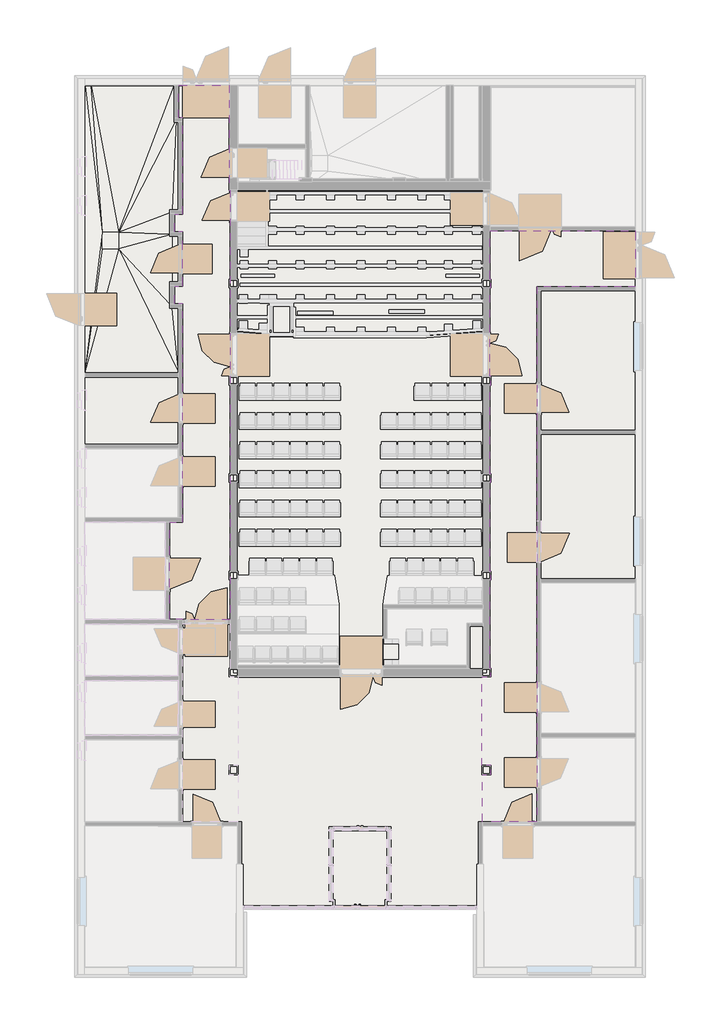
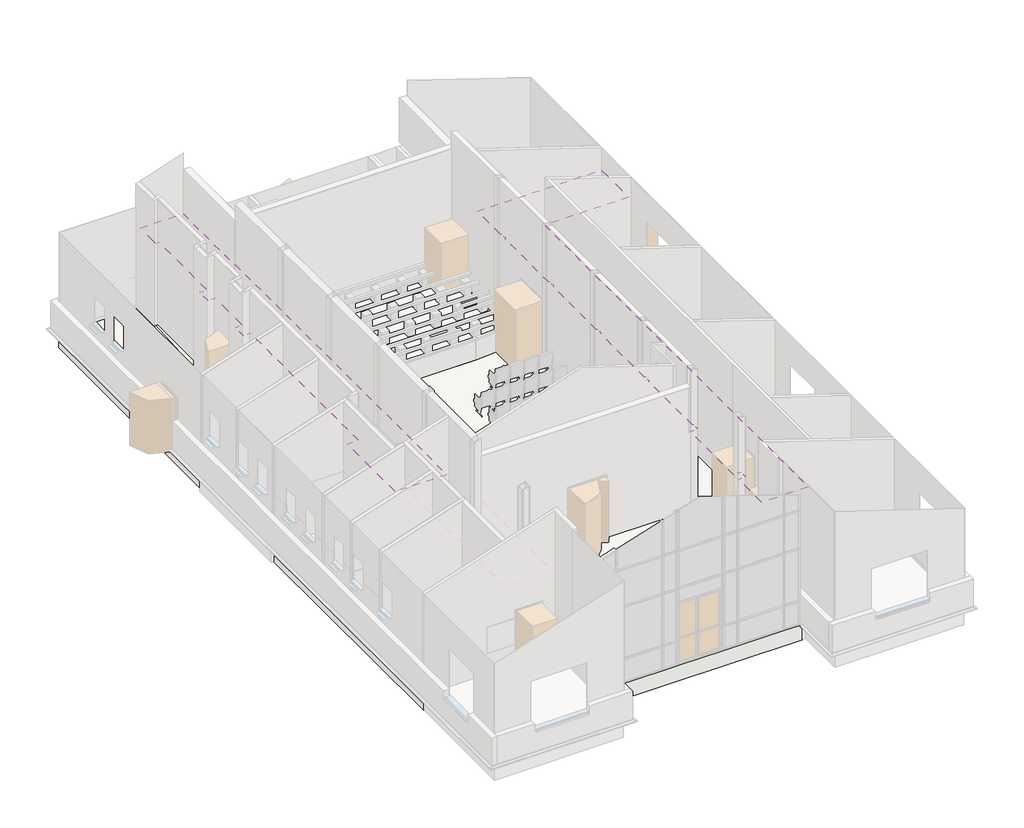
# One storey, part 10 of 12: 8 slabs, 2 coverings.
"""IFC4 building model written with IfcOpenShell, lengths in millimetres."""

from ifc_helpers import new_model, si_unit, frame, origin, place, context, project, spatial, polyline, outline, extrude, faceted_brep, element, save

model = new_model("IFC4")

# Units and contexts
model_context = context("Model", 3, world=origin())
ifc_project = project(units=[si_unit("LENGTHUNIT", "METRE", prefix="MILLI")], contexts=[model_context])

# Site, building, storey
site = spatial("IfcSite", under=ifc_project)
building = spatial("IfcBuilding", under=site)
storey = spatial("IfcBuildingStorey", under=building, Name="Этаж 01", Elevation=0.0)

# Coverings
placement = place(None, origin())
element("IfcCovering", 1, ObjectType="ADSK_Подвесной_Плиты потолочные Армстронг 600х600 мм", at=placement, inside=storey, context=model_context, shape_type="SweptSolid", body=[
    extrude(outline(polyline([(2805.2572865, 27099.0), (4365.0, 27099.0), (4365.0, 23874.5), (4394.0630762, 23874.5), (4394.0630762, 10631.0), (2925.2560094, 10631.0), (2925.2560094, 10640.0), (2535.0415712, 10640.0), (2535.0415712, 13640.0024506), (2935.2572865, 13640.0024506), (2935.2572865, 20369.9176473), (2675.2572925, 20369.9176473), (2675.2572925, 20909.9176368), (2935.2572865, 20909.9176368), (2935.2572865, 22589.9176629), (2675.2572925, 22589.9176629), (2675.2572925, 23129.9176524), (2935.2572865, 23129.9176524), (2935.2572865, 26109.9955786), (2805.2572865, 26109.9955786), (2805.2572865, 27099.0)])), frame((0.0, 0.0, 3000.0), z_axis=(0.0, 0.0, 1.0), x_axis=(1.0, 0.0, 0.0)), (0.0, 0.0, 1.0), 32.0),
])
element("IfcCovering", 2, ObjectType="ADSK_Подвесной_Плиты потолочные Армстронг 600х600 мм", at=placement, inside=storey, context=model_context, shape_type="SweptSolid", body=[
    extrude(outline(polyline([(12163.5, 6141.0), (12163.5, 8865.0000003), (12181.0630762, 8865.0000003), (12181.0630762, 8874.0), (12438.4369238, 8874.0), (12438.4369238, 9133.0), (12406.0, 9133.0), (12406.0, 11866.5), (12438.5, 11866.5), (12438.5, 12133.0), (12406.0, 12133.0), (12406.0, 14866.5), (12438.5, 14866.5), (12438.5, 15133.0), (12406.0, 15133.0), (12406.0, 17866.5), (12439.0000003, 17866.5), (12439.0000003, 18133.0), (12406.0, 18133.0), (12406.0, 20866.5), (12439.0, 20866.5), (12439.0, 21133.5), (12406.0, 21133.5), (12406.0, 22620.0), (16899.0, 22620.0), (16899.0, 20901.5), (13854.0, 20901.5), (13854.0, 4399.9957095), (12168.4369238, 4399.9957095), (12168.4369238, 5859.0), (12432.4369238, 5859.0), (12432.4369238, 6141.0), (12163.5, 6141.0)])), frame((0.0, 0.0, 3000.0), z_axis=(0.0, 0.0, 1.0), x_axis=(1.0, 0.0, 0.0)), (0.0, 0.0, 1.0), 32.0),
])

# Slabs
element("IfcSlab", 3, ObjectType="Основа", at=placement, inside=storey, context=model_context, shape_type="Brep", body=[
    faceted_brep([(16885.0, 7062.5, -627.0), (16885.0, 4337.4957095, -627.0), (16755.0, 4337.4957095, -627.0), (12112.5, 4337.4957095, -627.0), (12112.5, 1885.3517467, -627.0), (12112.5, 1755.3517467, -627.0), (4675.0, 1755.3517467, -627.0), (4675.0, 1885.3517467, -627.0), (4675.0, 4337.4957095, -627.0), (45.0, 4337.4957095, -627.0), (-85.0, 4337.4957095, -627.0), (-85.0, 13710.0024506, -627.0), (45.0, 13710.0024506, -627.0), (2865.2572865, 13710.0024506, -627.0), (2865.2572865, 20299.9176368, -627.0), (2605.2572925, 20299.9176368, -627.0), (2605.2572925, 20979.9176368, -627.0), (2865.2572865, 20979.9176368, -627.0), (2865.2572865, 22519.9176629, -627.0), (2605.2572925, 22519.9176629, -627.0), (2605.2572925, 23199.9176524, -627.0), (2865.2572865, 23199.9176524, -627.0), (2865.2572865, 26039.9955786, -627.0), (2735.2572865, 26039.9955786, -627.0), (2735.2572865, 26955.0, -627.0), (2735.2572865, 27085.0, -627.0), (4500.0, 27085.0, -627.0), (4500.0, 26955.0, -627.0), (4375.0, 26955.0, -627.0), (4375.0, 23875.0, -627.0), (4500.0, 23875.0, -627.0), (4500.0, 9000.0, -627.0), (4619.0630762, 9000.0, -627.0), (4619.0630762, 8875.0, -627.0), (12181.0630762, 8875.0, -627.0), (12181.0630762, 9000.0, -627.0), (12300.0, 9000.0, -627.0), (12300.0, 23875.0, -627.0), (12425.0, 23875.0, -627.0), (12425.0, 26955.0, -627.0), (12300.0, 26955.0, -627.0), (12300.0, 27085.0, -627.0), (16885.0, 27085.0, -627.0), (16885.0, 26955.0, -627.0), (16885.0, 20838.0, -627.0), (16755.0, 20838.0, -627.0), (13917.5, 20838.0, -627.0), (13917.5, 7062.5, -627.0), (16755.0, 7062.5, -627.0), (16885.0, 4337.4957095, -20.0), (16885.0, 7062.5, -20.0), (13917.5, 7062.5, -20.0), (13917.5, 20838.0, -20.0), (16885.0, 20838.0, -20.0), (16885.0, 26955.0, -20.0), (16885.0, 27085.0, -20.0), (12425.0, 27085.0, -20.0), (12425.0, 23875.0, -20.0), (12300.0, 23875.0, -20.0), (12300.0, 9000.0, -20.0), (12181.0630762, 9000.0, -20.0), (12181.0630762, 8875.0, -20.0), (4619.0630762, 8875.0, -20.0), (4619.0630762, 9000.0, -20.0), (4500.0, 9000.0, -20.0), (4500.0, 23875.0, -20.0), (4375.0, 23875.0, -20.0), (4375.0, 27085.0, -20.0), (2795.2572865, 27085.0, -20.0), (2735.2572865, 27085.0, -20.0), (2735.2572865, 26099.9955786, -20.0), (2735.2572865, 26039.9955786, -20.0), (2865.2572865, 26039.9955786, -20.0), (2865.2572865, 25979.9955786, -20.0), (2925.2572865, 25979.9955786, -20.0), (2925.2572865, 23259.9176524, -20.0), (2865.2572865, 23259.9176524, -20.0), (2865.2572865, 23199.9176524, -20.0), (2605.2572925, 23199.9176524, -20.0), (2605.2572925, 23139.9176524, -20.0), (2665.2572925, 23139.9176524, -20.0), (2665.2572925, 22579.9176629, -20.0), (2605.2572925, 22579.9176629, -20.0), (2605.2572925, 22519.9176629, -20.0), (2865.2572865, 22519.9176629, -20.0), (2865.2572865, 22459.9176629, -20.0), (2925.2572865, 22459.9176629, -20.0), (2925.2572865, 21039.9176368, -20.0), (2865.2572865, 21039.9176368, -20.0), (2865.2572865, 20979.9176368, -20.0), (2605.2572925, 20979.9176368, -20.0), (2605.2572925, 20919.9176368, -20.0), (2665.2572925, 20919.9176368, -20.0), (2665.2572925, 20359.9176368, -20.0), (2605.2572925, 20359.9176368, -20.0), (2605.2572925, 20299.9176368, -20.0), (2865.2572865, 20299.9176368, -20.0), (2865.2572865, 20239.9176368, -20.0), (2925.2572865, 20239.9176368, -20.0), (2925.2572865, 13770.0024506, -20.0), (2865.2572865, 13770.0024506, -20.0), (2865.2572865, 13710.0024506, -20.0), (-85.0, 13710.0024506, -20.0), (-85.0, 13650.0024506, -20.0), (-85.0, 10630.0, -20.0), (-85.0, 10510.0, -20.0), (-85.0, 8890.0, -20.0), (-85.0, 8770.0, -20.0), (-85.0, 7059.9969968, -20.0), (-85.0, 6939.9969968, -20.0), (-85.0, 4399.9957095, -20.0), (-85.0, 4337.4957095, -20.0), (4687.5, 4337.4957095, -20.0), (4687.5, 1885.3517467, -20.0), (4687.5, 1755.3517467, -20.0), (12112.5, 1755.3517467, -20.0), (12112.5, 1885.3517467, -20.0), (12112.5, 4337.4957095, -20.0), (2925.3948034, 10630.0, -20.0), (2925.3948034, 7059.9969968, -20.0), (2805.3948034, 7059.9969968, -20.0), (2805.3948034, 8770.0, -20.0), (2805.3948034, 8890.0, -20.0), (2805.3948034, 10510.0, -20.0), (2805.3948034, 10630.0, -20.0), (16885.0, 7062.5, -610.0), (16885.0, 4337.4957095, -610.0), (12112.5, 1755.3517467, -610.0), (4687.5, 1755.3517467, -610.0), (4675.0, 1755.3517467, -610.0), (-85.0, 4337.4957095, -610.0), (-85.0, 13710.0024506, -100.0), (-85.0, 13710.0024506, -610.0), (12300.0, 27085.0, -25.0), (12425.0, 27085.0, -25.0), (16885.0, 27085.0, -25.0), (4375.0, 26955.0, -25.0), (4375.0, 27085.0, -25.0), (12425.0, 26955.0, -25.0), (4619.0630762, 9000.0, -612.0), (12300.0, 23875.0, -612.0), (2665.2572925, 20919.9176368, -25.0), (2665.2572925, 20359.9176368, -25.0), (2605.2572925, 20359.9176368, -25.0), (2605.2572925, 20919.9176368, -25.0), (2665.2572925, 23139.9176524, -25.0), (2665.2572925, 22579.9176629, -25.0), (2605.2572925, 22579.9176629, -25.0), (2605.2572925, 23139.9176524, -25.0), (2925.2572865, 25979.9955786, -25.0), (2925.2572865, 23259.9176524, -25.0), (2865.2572865, 23259.9176524, -25.0), (2925.2572865, 22459.9176629, -25.0), (2925.2572865, 21039.9176368, -25.0), (2865.2572865, 21039.9176368, -25.0), (2865.2572865, 22459.9176629, -25.0), (2925.2572865, 20239.9176368, -25.0), (2925.2572865, 13770.0024506, -25.0), (2865.2572865, 13770.0024506, -25.0), (2865.2572865, 20239.9176368, -25.0), (2925.3948034, 10630.0, -25.0), (2925.3948034, 7059.9969968, -25.0), (2805.3948034, 7059.9969968, -25.0), (2805.3948034, 10630.0, -25.0), (2865.2572865, 13710.0024506, -610.0), (2865.2572865, 18180.0, -25.0), (2865.2572865, 20299.9176368, -25.0), (2605.2572925, 20299.9176368, -25.0), (2605.2572925, 20979.9176368, -25.0), (2865.2572865, 20979.9176368, -25.0), (2865.2572865, 22519.9176629, -25.0), (2605.2572925, 22519.9176629, -25.0), (2605.2572925, 23199.9176524, -25.0), (2865.2572865, 23199.9176524, -25.0), (2865.2572865, 25979.9955786, -25.0), (2865.2572865, 26039.9955786, -25.0), (2735.2572865, 26039.9955786, -25.0), (2735.2572865, 27085.0, -25.0), (12112.5, 4337.4957095, -610.0), (16885.0, 20838.0, -610.0), (13917.5, 20838.0, -610.0), (13917.5, 7062.5, -610.0), (4687.5, 4337.4957095, -610.0), (4675.0, 4337.4957095, -610.0), (4675.0, 1885.3517467, -610.0), (4500.0, 27085.0, -25.0), (4500.0, 27085.0, -540.0), (4500.0, 9000.0, -612.0), (4500.0, 26955.0, -25.0), (4500.0, 26955.0, -540.0), (12300.0, 9000.0, -612.0), (12181.0630762, 9000.0, -612.0), (12300.0, 26955.0, -25.0)], [[[0, 1, 2, 3, 4, 5, 6, 7, 8, 9, 10, 11, 12, 13, 14, 15, 16, 17, 18, 19, 20, 21, 22, 23, 24, 25, 26, 27, 28, 29, 30, 31, 32, 33, 34, 35, 36, 37, 38, 39, 40, 41, 42, 43, 44, 45, 46, 47, 48]], [[49, 50, 51, 52, 53, 54, 55, 56, 57, 58, 59, 60, 61, 62, 63, 64, 65, 66, 67, 68, 69, 70, 71, 72, 73, 74, 75, 76, 77, 78, 79, 80, 81, 82, 83, 84, 85, 86, 87, 88, 89, 90, 91, 92, 93, 94, 95, 96, 97, 98, 99, 100, 101, 102, 103, 104, 105, 106, 107, 108, 109, 110, 111, 112, 113, 114, 115, 116, 117], [118, 119, 120, 121, 122, 123, 124]], [[1, 0, 125, 50, 49, 126]], [[6, 5, 127, 115, 114, 128, 129]], [[11, 10, 130, 111, 110, 109, 108, 107, 106, 105, 104, 103, 102, 131, 132]], [[42, 41, 133, 134, 56, 55, 135]], [[29, 28, 136, 137, 67, 66]], [[39, 38, 57, 56, 134, 138]], [[33, 62, 61, 34]], [[62, 33, 32, 139, 63]], [[38, 37, 140, 58, 57]], [[141, 142, 93, 92]], [[93, 142, 143, 94]], [[141, 92, 91, 144]], [[145, 146, 81, 80]], [[81, 146, 147, 82]], [[145, 80, 79, 148]], [[149, 150, 75, 74]], [[75, 150, 151, 76]], [[152, 153, 87, 86]], [[87, 153, 154, 88]], [[152, 86, 85, 155]], [[156, 157, 99, 98]], [[99, 157, 158, 100]], [[156, 98, 97, 159]], [[160, 161, 119, 118]], [[162, 163, 124, 123, 122, 121, 120]], [[161, 162, 120, 119]], [[14, 13, 164, 101, 100, 158, 165, 159, 97, 96, 166]], [[15, 14, 166, 96, 95, 167]], [[16, 15, 167, 95, 94, 143, 144, 91, 90, 168]], [[17, 16, 168, 90, 89, 169]], [[18, 17, 169, 89, 88, 154, 155, 85, 84, 170]], [[19, 18, 170, 84, 83, 171]], [[20, 19, 171, 83, 82, 147, 148, 79, 78, 172]], [[21, 20, 172, 78, 77, 173]], [[22, 21, 173, 77, 76, 151, 174, 73, 72, 175]], [[23, 22, 175, 72, 71, 176]], [[25, 24, 23, 176, 71, 70, 69, 177]], [[13, 12, 11, 132, 131, 102, 101, 164]], [[3, 2, 1, 126, 49, 117, 178]], [[5, 4, 3, 178, 117, 116, 115, 127]], [[44, 43, 42, 135, 55, 54, 53, 179]], [[46, 45, 44, 179, 53, 52, 180]], [[47, 46, 180, 52, 51, 181]], [[0, 48, 47, 181, 51, 50, 125]], [[182, 183, 184, 129, 128]], [[26, 25, 177, 69, 68, 67, 137, 185, 186]], [[64, 187, 31, 30, 65]], [[27, 26, 186, 185, 188, 189]], [[31, 187, 64, 63, 139, 32]], [[59, 190, 36, 35, 191, 60]], [[36, 190, 59, 58, 140, 37]], [[41, 40, 192, 133]], [[8, 7, 6, 129, 184, 183]], [[10, 9, 8, 183, 182, 112, 111, 130]], [[112, 182, 128, 114, 113]], [[137, 136, 188, 185]], [[188, 136, 28, 27, 189]], [[138, 134, 133, 192]], [[138, 192, 40, 39]], [[29, 66, 65, 30]], [[34, 61, 60, 191, 35]], [[163, 160, 118, 124]], [[157, 156, 159, 165, 158]], [[142, 141, 144, 143]], [[146, 145, 148, 147]], [[150, 149, 174, 151]], [[149, 74, 73, 174]], [[153, 152, 155, 154]], [[161, 160, 163, 162]]]),
])
element("IfcSlab", 4, ObjectType="Основа 2", at=placement, inside=storey, context=model_context, shape_type="Brep", body=[
    faceted_brep([(2865.2572865, 18240.0, -605.0), (45.0, 18240.0, -605.0), (-85.0, 18240.0, -605.0), (-85.0, 27175.0, -605.0), (45.0, 27175.0, -605.0), (45.0, 26955.0, -605.0), (2735.2572865, 26955.0, -605.0), (2735.2572865, 26039.9955786, -605.0), (2865.2572865, 26039.9955786, -605.0), (2865.2572865, 23199.9176524, -605.0), (2605.2572925, 23199.9176524, -605.0), (2605.2572925, 22519.9176629, -605.0), (2865.2572865, 22519.9176629, -605.0), (2865.2572865, 20979.9176368, -605.0), (2605.2572925, 20979.9176368, -605.0), (2605.2572925, 20299.9176368, -605.0), (2865.2572865, 20299.9176368, -605.0), (2865.2572865, 18240.0, -25.0), (2805.2572865, 18240.0, -25.0), (2805.2572865, 18240.0, -20.0), (-85.0, 18240.0, -20.0), (-85.0, 18240.0, -100.0), (-85.0, 27085.0, -20.0), (-85.0, 27175.0, -20.0), (-85.0, 27175.0, -25.0), (-85.0, 27175.0, -100.0), (89.6092508, 27175.0, -20.0), (2695.2572865, 27175.0, -20.0), (2735.2572865, 27175.0, -20.0), (2735.2572865, 27175.0, -25.0), (45.0, 27175.0, -25.0), (45.0, 27175.0, -100.0), (449.6620548, 22569.3460592, -45.0), (-74.5520624, 27085.0, -20.48853), (949.7230003, 22069.4189087, -45.0), (949.7156303, 22569.3484536, -45.0), (449.6562003, 22069.4286245, -45.0), (96.6451142, 27085.0, -20.48853), (2865.2572865, 26039.9955786, -20.0), (2865.2572865, 25979.9955786, -20.0), (2865.2572865, 25979.9955786, -25.0), (2865.2572865, 23259.9176524, -25.0), (2865.2572865, 23199.9176524, -25.0), (106.4167694, 27085.0, -20.4885302), (2735.2572865, 26039.9955786, -20.0), (2735.2572865, 26955.0, -25.0), (2735.2572865, 26099.9955786, -25.0), (2735.2572865, 26099.9955786, -20.0), (2735.2572865, 27085.0, -20.0), (2735.2572865, 27085.0, -25.0), (2605.2572925, 23199.9176524, -25.0), (2605.2572925, 23139.9176524, -25.0), (2605.2572925, 22579.9176629, -25.0), (2605.2572925, 22519.9176629, -25.0), (2865.2572865, 22519.9176629, -25.0), (2865.2572865, 22459.9176629, -25.0), (2865.2572865, 22459.9176629, -20.0), (2865.2572865, 21039.9176368, -20.0), (2865.2572865, 21039.9176368, -25.0), (2865.2572865, 20979.9176368, -25.0), (2605.2572925, 20979.9176368, -25.0), (2605.2572925, 20919.9176368, -25.0), (2605.2572925, 20359.9176368, -25.0), (2605.2572925, 20299.9176368, -25.0), (2865.2572865, 20299.9176368, -25.0), (2865.2572865, 20239.9176368, -25.0), (2545.2572925, 21039.9176368, -20.9060519), (2605.2572925, 21039.9176368, -20.0), (2605.2572925, 22459.9176629, -20.0), (2545.2572925, 22459.9176629, -20.9060519), (2545.2572925, 22503.5906527, -20.9060519), (2545.2572925, 20364.0480368, -20.9060519), (2545.2572925, 22521.7091294, -20.9060479), (2733.1427573, 26099.9955786, -20.0), (2675.2572865, 26099.9955786, -20.7585152), (2675.2572865, 27085.0, -20.3036368), (2698.4290804, 27085.0, -20.0), (2661.147292, 27085.0, -20.4885302), (2545.2572925, 23177.0646171, -20.9060479), (2545.2572925, 23259.9176524, -20.9643333), (2608.0036959, 23259.9176524, -20.0), (2805.2572865, 23259.9176524, -20.0), (2805.2572865, 25979.9955786, -20.0), (2611.082768, 20239.9176368, -20.0), (2805.2572865, 20239.9176368, -20.0), (2545.2572925, 20239.9176368, -21.1091206), (2805.2572865, 23259.9176524, -25.0), (2805.2572865, 25979.9955786, -25.0), (2545.2572925, 20239.9176368, -25.0), (2805.2572865, 20239.9176368, -25.0), (2545.2572925, 20359.9176368, -25.0), (2545.2572925, 20919.9176368, -25.0), (2545.2572925, 21039.9176368, -25.0), (2545.2572925, 22459.9176629, -25.0), (2545.2572925, 22579.9176629, -25.0), (2545.2572925, 23139.9176524, -25.0), (2545.2572925, 23259.9176524, -25.0), (2675.2572865, 26099.9955786, -25.0), (2675.2572865, 26955.0, -25.0), (2675.2572865, 27085.0, -25.0), (45.0, 26955.0, -25.0)], [[[0, 1, 2, 3, 4, 5, 6, 7, 8, 9, 10, 11, 12, 13, 14, 15, 16]], [[2, 1, 0, 17, 18, 19, 20, 21]], [[3, 2, 21, 20, 22, 23, 24, 25]], [[3, 25, 24, 23, 26, 27, 28, 29, 30, 31, 4]], [[23, 22, 20, 32, 33]], [[34, 35, 32, 36]], [[36, 32, 20]], [[23, 33, 32, 37, 26]], [[9, 8, 38, 39, 40, 41, 42]], [[34, 36, 20]], [[32, 35, 43, 26, 37]], [[44, 7, 6, 45, 46, 47]], [[28, 48, 49, 29]], [[8, 7, 44, 38]], [[10, 9, 42, 50]], [[11, 10, 50, 51, 52, 53]], [[12, 11, 53, 54]], [[13, 12, 54, 55, 56, 57, 58, 59]], [[14, 13, 59, 60]], [[15, 14, 60, 61, 62, 63]], [[16, 15, 63, 64]], [[0, 16, 64, 65, 17]], [[66, 67, 68, 69, 70, 34, 71]], [[35, 34, 70, 72]], [[35, 44, 73, 74, 75, 76, 27, 77]], [[35, 72, 78]], [[44, 35, 78, 79, 80]], [[67, 57, 56, 68]], [[38, 44, 80, 81, 82, 39]], [[26, 43, 35, 77, 27]], [[47, 73, 44]], [[28, 27, 76, 48]], [[34, 20, 19]], [[83, 19, 84]], [[34, 19, 83, 85, 71]], [[86, 87, 82, 81]], [[88, 85, 83, 84, 89]], [[85, 88, 90, 91, 92, 66, 71]], [[66, 92, 58, 57, 67]], [[93, 69, 68, 56, 55]], [[69, 93, 94, 95, 96, 79, 78, 72, 70]], [[79, 96, 86, 81, 80]], [[74, 97, 98, 99, 75]], [[97, 74, 73, 47, 46]], [[75, 99, 49, 48, 76]], [[5, 100, 98, 45, 6]], [[98, 100, 30, 29, 49, 99]], [[100, 5, 4, 31, 30]], [[18, 89, 84, 19]], [[87, 86, 96, 95, 94, 93, 55, 54, 53, 52, 51, 50, 42, 41, 40]], [[82, 87, 40, 39]], [[64, 63, 62, 61, 60, 59, 58, 92, 91, 90, 88, 89, 18, 17, 65]], [[97, 46, 45, 98]]]),
])
element("IfcSlab", 5, ObjectType="Основа", at=placement, inside=storey, context=model_context, shape_type="Brep", body=[
    faceted_brep([(4500.0, 9000.0, -612.0), (4500.0, 24000.0, -612.0), (4625.0, 24000.0, -612.0), (4625.0, 23875.0, -612.0), (12300.0, 23875.0, -612.0), (12300.0, 9000.0, -612.0), (12181.0630762, 9000.0, -612.0), (12181.0630762, 9125.0, -612.0), (4619.0630762, 9125.0, -612.0), (4619.0630762, 9000.0, -612.0), (4500.0, 24000.0, -5.0), (4500.0, 11900.0, -5.0), (4500.0, 9100.0, -5.0), (4500.0, 9000.0, -5.0), (4619.0630762, 9000.0, -5.0), (4619.0630762, 9125.0, -5.0), (12181.0630762, 9125.0, -5.0), (12181.0630762, 9000.0, -5.0), (12300.0, 9000.0, -5.0), (12300.0, 12100.0, -5.0), (12300.0, 14900.0, -5.0), (12300.0, 23875.0, -5.0), (4625.0, 23875.0, -5.0), (4625.0, 24000.0, -5.0), (4944.9999907, 21704.9861536, -5.0), (4944.9999907, 21454.9861536, -5.0), (4694.9999907, 21454.9861536, -5.0), (4694.9999907, 21704.9861536, -5.0), (4945.0, 22075.0, -5.0), (4945.0, 21825.0, -5.0), (4695.0, 21825.0, -5.0), (4695.0, 22075.0, -5.0), (4924.9987483, 20644.9144735, -5.0), (4924.9987483, 20394.9144735, -5.0), (4674.9987483, 20394.9144735, -5.0), (4674.9987483, 20644.9144735, -5.0), (4924.9987483, 19854.4960288, -5.0), (4924.9987483, 19604.4960288, -5.0), (4674.9987483, 19604.4960288, -5.0), (4674.9987483, 19854.4960288, -5.0), (5324.9987483, 20394.9144735, -5.0), (5324.9987483, 20644.9144735, -5.0), (5824.9987483, 20644.9144735, -5.0), (5824.9987483, 20394.9144735, -5.0), (5824.9999907, 21704.9861536, -5.0), (5824.9999907, 21454.9861536, -5.0), (5574.9999907, 21454.9861536, -5.0), (5574.9999907, 21704.9861536, -5.0), (6680.0047797, 21704.9861536, -5.0), (6680.0047797, 21454.9861536, -5.0), (6430.0047797, 21454.9861536, -5.0), (6430.0047797, 21704.9861536, -5.0), (7619.1719447, 22765.0578244, -5.0), (7619.1719447, 22515.0578244, -5.0), (7369.1719447, 22515.0578244, -5.0), (7369.1719447, 22765.0578244, -5.0), (6680.0047797, 23825.0000093, -5.0), (6680.0047797, 23575.0000093, -5.0), (6430.0047797, 23575.0000093, -5.0), (6430.0047797, 23825.0000093, -5.0), (5829.6999907, 23825.0000093, -5.0), (5829.6999907, 23575.0000093, -5.0), (5579.6999907, 23575.0000093, -5.0), (5579.6999907, 23825.0000093, -5.0), (7619.6854574, 23825.0000093, -5.0), (7619.6854574, 23575.0000093, -5.0), (7369.6854574, 23575.0000093, -5.0), (7369.6854574, 23825.0000093, -5.0), (8559.8874985, 23825.0000093, -5.0), (8559.8874985, 23575.0000093, -5.0), (8309.8874985, 23575.0000093, -5.0), (8309.8874985, 23825.0000093, -5.0), (8559.3739857, 22765.0578244, -5.0), (8559.3739857, 22515.0578244, -5.0), (8309.3739857, 22515.0578244, -5.0), (8309.3739857, 22765.0578244, -5.0), (7619.6854667, 21704.9861536, -5.0), (7619.6854667, 21454.9861536, -5.0), (7369.6854667, 21454.9861536, -5.0), (7369.6854667, 21704.9861536, -5.0), (5529.964908, 19775.47696, -5.0), (5529.964908, 19525.47696, -5.0), (5279.964908, 19525.47696, -5.0), (5279.964908, 19775.47696, -5.0), (6680.0047797, 19644.9452231, -5.0), (6680.0047797, 19394.9452231, -5.0), (6430.0047797, 19394.9452231, -5.0), (6430.0047797, 19644.9452231, -5.0), (7620.0047797, 19644.9452231, -5.0), (7620.0047797, 19394.9452231, -5.0), (7370.0047797, 19394.9452231, -5.0), (7370.0047797, 19644.9452231, -5.0), (8560.0047797, 19644.9452231, -5.0), (8560.0047797, 19394.9452231, -5.0), (8310.0047797, 19394.9452231, -5.0), (8310.0047797, 19644.9452231, -5.0), (9500.0047797, 19644.9452231, -5.0), (9500.0047797, 19394.9452231, -5.0), (9250.0047797, 19394.9452231, -5.0), (9250.0047797, 19644.9452231, -5.0), (8560.0047797, 20645.9144828, -5.0), (8560.0047797, 20395.9144828, -5.0), (8310.0047797, 20395.9144828, -5.0), (8310.0047797, 20645.9144828, -5.0), (7620.0047797, 20645.9144828, -5.0), (7620.0047797, 20395.9144828, -5.0), (7370.0047797, 20395.9144828, -5.0), (7370.0047797, 20645.9144828, -5.0), (6680.0047797, 20645.9144828, -5.0), (6680.0047797, 20395.9144828, -5.0), (6430.0047797, 20395.9144828, -5.0), (6430.0047797, 20645.9144828, -5.0), (8559.8875171, 21704.9861536, -5.0), (8559.8875171, 21454.9861536, -5.0), (8309.8875171, 21454.9861536, -5.0), (8309.8875171, 21704.9861536, -5.0), (9500.0895488, 21704.9861536, -5.0), (9500.0895488, 21454.9861536, -5.0), (9250.0895488, 21454.9861536, -5.0), (9250.0895488, 21704.9861536, -5.0), (10440.287517, 21704.9861536, -5.0), (10440.287517, 21454.9861536, -5.0), (10190.287517, 21454.9861536, -5.0), (10190.287517, 21704.9861536, -5.0), (9500.0047797, 20645.9144828, -5.0), (9500.0047797, 20395.9144828, -5.0), (9250.0047797, 20395.9144828, -5.0), (9250.0047797, 20645.9144828, -5.0), (6680.0047797, 22765.0578244, -5.0), (6680.0047797, 22515.0578244, -5.0), (6430.0047797, 22515.0578244, -5.0), (6430.0047797, 22765.0578244, -5.0), (5829.6999907, 22765.0578244, -5.0), (5829.6999907, 22515.0578244, -5.0), (5579.6999907, 22515.0578244, -5.0), (5579.6999907, 22765.0578244, -5.0), (9499.3229082, 22765.0578244, -5.0), (9499.3229082, 22515.0578244, -5.0), (9249.3229082, 22515.0578244, -5.0), (9249.3229082, 22765.0578244, -5.0), (9499.3229082, 23825.0000093, -5.0), (9499.3229082, 23575.0000093, -5.0), (9249.3229082, 23575.0000093, -5.0), (9249.3229082, 23825.0000093, -5.0), (10440.287517, 23825.0000093, -5.0), (10440.287517, 23575.0000093, -5.0), (10190.287517, 23575.0000093, -5.0), (10190.287517, 23825.0000093, -5.0), (10439.7740043, 22765.0578244, -5.0), (10439.7740043, 22515.0578244, -5.0), (10189.7740043, 22515.0578244, -5.0), (10189.7740043, 22765.0578244, -5.0), (10440.0047797, 20645.9144828, -5.0), (10440.0047797, 20395.9144828, -5.0), (10190.0047797, 20395.9144828, -5.0), (10190.0047797, 20645.9144828, -5.0), (10440.0047797, 19644.9452231, -5.0), (10440.0047797, 19394.9452231, -5.0), (10190.0047797, 19394.9452231, -5.0), (10190.0047797, 19644.9452231, -5.0), (11248.612159, 19745.9314238, -5.0), (11248.612159, 19495.9314238, -5.0), (10998.612159, 19495.9314238, -5.0), (10998.612159, 19745.9314238, -5.0), (11250.1553074, 20645.9144828, -5.0), (11250.1553074, 20395.9144828, -5.0), (11000.1553074, 20395.9144828, -5.0), (11000.1553074, 20645.9144828, -5.0), (11250.1553259, 21704.9861536, -5.0), (11250.1553259, 21454.9861536, -5.0), (11000.1553259, 21454.9861536, -5.0), (11000.1553259, 21704.9861536, -5.0), (11249.6418039, 22765.0578244, -5.0), (11249.6418039, 22515.0578244, -5.0), (10999.6418039, 22515.0578244, -5.0), (10999.6418039, 22765.0578244, -5.0), (11249.6418039, 23825.0000093, -5.0), (11249.6418039, 23575.0000093, -5.0), (10999.6418039, 23575.0000093, -5.0), (10999.6418039, 23825.0000093, -5.0), (12124.8012517, 23825.0000093, -5.0), (12124.8012517, 23575.0000093, -5.0), (11874.8012517, 23575.0000093, -5.0), (11874.8012517, 23825.0000093, -5.0), (12124.8012517, 22765.0578244, -5.0), (12124.8012517, 22515.0578244, -5.0), (11874.8012517, 22515.0578244, -5.0), (11874.8012517, 22765.0578244, -5.0), (12124.8012517, 21704.9861536, -5.0), (12124.8012517, 21454.9861536, -5.0), (11874.8012517, 21454.9861536, -5.0), (11874.8012517, 21704.9861536, -5.0), (12124.8012424, 20645.9144828, -5.0), (12124.8012424, 20395.9144828, -5.0), (11874.8012424, 20395.9144828, -5.0), (11874.8012424, 20645.9144828, -5.0), (12128.8953316, 19855.4960288, -5.0), (12128.8953316, 19605.4960288, -5.0), (11878.8953316, 19605.4960288, -5.0), (11878.8953316, 19855.4960288, -5.0), (4619.0630762, 9000.0, -20.0), (4500.0, 9000.0, -20.0), (12300.0, 9000.0, -20.0), (12181.0630762, 9000.0, -20.0), (4500.0, 24000.0, -20.0), (12300.0, 23875.0, -20.0), (4944.9999907, 21454.9861536, -160.0), (4944.9999907, 21704.9861536, -160.0), (4694.9999907, 21704.9861536, -160.0), (4694.9999907, 21454.9861536, -160.0), (4945.0, 21825.0, -160.0), (4945.0, 22075.0, -160.0), (4695.0, 22075.0, -160.0), (4695.0, 21825.0, -160.0), (4924.9987483, 20394.9144735, -160.0), (4924.9987483, 20644.9144735, -160.0), (4674.9987483, 20644.9144735, -160.0), (4674.9987483, 20394.9144735, -160.0), (4924.9987483, 19604.4960288, -160.0), (4924.9987483, 19854.4960288, -160.0), (4674.9987483, 19854.4960288, -160.0), (4674.9987483, 19604.4960288, -160.0), (5324.9987483, 20644.9144735, -160.0), (5324.9987483, 20394.9144735, -160.0), (5574.9987483, 20394.9144735, -160.0), (5824.9987483, 20394.9144735, -160.0), (5824.9987483, 20644.9144735, -160.0), (5574.9987483, 20644.9144735, -160.0), (5824.9999907, 21454.9861536, -160.0), (5824.9999907, 21704.9861536, -160.0), (5574.9999907, 21704.9861536, -160.0), (5574.9999907, 21454.9861536, -160.0), (6680.0047797, 21454.9861536, -160.0), (6680.0047797, 21704.9861536, -160.0), (6430.0047797, 21704.9861536, -160.0), (6430.0047797, 21454.9861536, -160.0), (7619.1719447, 22515.0578244, -160.0), (7619.1719447, 22765.0578244, -160.0), (7369.1719447, 22765.0578244, -160.0), (7369.1719447, 22515.0578244, -160.0), (6680.0047797, 23575.0000093, -160.0), (6680.0047797, 23825.0000093, -160.0), (6430.0047797, 23825.0000093, -160.0), (6430.0047797, 23575.0000093, -160.0), (5829.6999907, 23575.0000093, -160.0), (5829.6999907, 23825.0000093, -160.0), (5579.6999907, 23825.0000093, -160.0), (5579.6999907, 23575.0000093, -160.0), (7619.6854574, 23575.0000093, -160.0), (7619.6854574, 23825.0000093, -160.0), (7369.6854574, 23825.0000093, -160.0), (7369.6854574, 23575.0000093, -160.0), (8559.8874985, 23575.0000093, -160.0), (8559.8874985, 23825.0000093, -160.0), (8309.8874985, 23825.0000093, -160.0), (8309.8874985, 23575.0000093, -160.0), (8559.3739857, 22515.0578244, -160.0), (8559.3739857, 22765.0578244, -160.0), (8309.3739857, 22765.0578244, -160.0), (8309.3739857, 22515.0578244, -160.0), (7619.6854667, 21454.9861536, -160.0), (7619.6854667, 21704.9861536, -160.0), (7369.6854667, 21704.9861536, -160.0), (7369.6854667, 21454.9861536, -160.0), (5529.964908, 19525.47696, -160.0), (5529.964908, 19775.47696, -160.0), (5279.964908, 19775.47696, -160.0), (5279.964908, 19525.47696, -160.0), (6680.0047797, 19394.9452231, -160.0), (6680.0047797, 19644.9452231, -160.0), (6430.0047797, 19644.9452231, -160.0), (6430.0047797, 19394.9452231, -160.0), (7620.0047797, 19394.9452231, -160.0), (7620.0047797, 19644.9452231, -160.0), (7370.0047797, 19644.9452231, -160.0), (7370.0047797, 19394.9452231, -160.0), (8560.0047797, 19394.9452231, -160.0), (8560.0047797, 19644.9452231, -160.0), (8310.0047797, 19644.9452231, -160.0), (8310.0047797, 19394.9452231, -160.0), (9500.0047797, 19394.9452231, -160.0), (9500.0047797, 19644.9452231, -160.0), (9250.0047797, 19644.9452231, -160.0), (9250.0047797, 19394.9452231, -160.0), (8560.0047797, 20395.9144828, -160.0), (8560.0047797, 20645.9144828, -160.0), (8310.0047797, 20645.9144828, -160.0), (8310.0047797, 20395.9144828, -160.0), (7620.0047797, 20395.9144828, -160.0), (7620.0047797, 20645.9144828, -160.0), (7370.0047797, 20645.9144828, -160.0), (7370.0047797, 20395.9144828, -160.0), (6680.0047797, 20395.9144828, -160.0), (6680.0047797, 20645.9144828, -160.0), (6430.0047797, 20645.9144828, -160.0), (6430.0047797, 20395.9144828, -160.0), (8559.8875171, 21454.9861536, -160.0), (8559.8875171, 21704.9861536, -160.0), (8309.8875171, 21704.9861536, -160.0), (8309.8875171, 21454.9861536, -160.0), (9500.0895488, 21454.9861536, -160.0), (9500.0895488, 21704.9861536, -160.0), (9250.0895488, 21704.9861536, -160.0), (9250.0895488, 21454.9861536, -160.0), (10440.287517, 21454.9861536, -160.0), (10440.287517, 21704.9861536, -160.0), (10190.287517, 21704.9861536, -160.0), (10190.287517, 21454.9861536, -160.0), (9500.0047797, 20395.9144828, -160.0), (9500.0047797, 20645.9144828, -160.0), (9250.0047797, 20645.9144828, -160.0), (9250.0047797, 20395.9144828, -160.0), (6680.0047797, 22515.0578244, -160.0), (6680.0047797, 22765.0578244, -160.0), (6430.0047797, 22765.0578244, -160.0), (6430.0047797, 22515.0578244, -160.0), (5829.6999907, 22515.0578244, -160.0), (5829.6999907, 22765.0578244, -160.0), (5579.6999907, 22765.0578244, -160.0), (5579.6999907, 22515.0578244, -160.0), (9499.3229082, 22515.0578244, -160.0), (9499.3229082, 22765.0578244, -160.0), (9249.3229082, 22765.0578244, -160.0), (9249.3229082, 22515.0578244, -160.0), (9499.3229082, 23575.0000093, -160.0), (9499.3229082, 23825.0000093, -160.0), (9249.3229082, 23825.0000093, -160.0), (9249.3229082, 23575.0000093, -160.0), (10440.287517, 23575.0000093, -160.0), (10440.287517, 23825.0000093, -160.0), (10190.287517, 23825.0000093, -160.0), (10190.287517, 23575.0000093, -160.0), (10439.7740043, 22515.0578244, -160.0), (10439.7740043, 22765.0578244, -160.0), (10189.7740043, 22765.0578244, -160.0), (10189.7740043, 22515.0578244, -160.0), (10440.0047797, 20395.9144828, -160.0), (10440.0047797, 20645.9144828, -160.0), (10190.0047797, 20645.9144828, -160.0), (10190.0047797, 20395.9144828, -160.0), (10440.0047797, 19394.9452231, -160.0), (10440.0047797, 19644.9452231, -160.0), (10190.0047797, 19644.9452231, -160.0), (10190.0047797, 19394.9452231, -160.0), (11248.612159, 19495.9314238, -160.0), (11248.612159, 19745.9314238, -160.0), (10998.612159, 19745.9314238, -160.0), (10998.612159, 19495.9314238, -160.0), (11250.1553074, 20395.9144828, -160.0), (11250.1553074, 20645.9144828, -160.0), (11000.1553074, 20645.9144828, -160.0), (11000.1553074, 20395.9144828, -160.0), (11250.1553259, 21454.9861536, -160.0), (11250.1553259, 21704.9861536, -160.0), (11000.1553259, 21704.9861536, -160.0), (11000.1553259, 21454.9861536, -160.0), (11249.6418039, 22515.0578244, -160.0), (11249.6418039, 22765.0578244, -160.0), (10999.6418039, 22765.0578244, -160.0), (10999.6418039, 22515.0578244, -160.0), (11249.6418039, 23575.0000093, -160.0), (11249.6418039, 23825.0000093, -160.0), (10999.6418039, 23825.0000093, -160.0), (10999.6418039, 23575.0000093, -160.0), (12124.8012517, 23575.0000093, -160.0), (12124.8012517, 23825.0000093, -160.0), (11874.8012517, 23825.0000093, -160.0), (11874.8012517, 23575.0000093, -160.0), (12124.8012517, 22515.0578244, -160.0), (12124.8012517, 22765.0578244, -160.0), (11874.8012517, 22765.0578244, -160.0), (11874.8012517, 22515.0578244, -160.0), (12124.8012517, 21454.9861536, -160.0), (12124.8012517, 21704.9861536, -160.0), (11874.8012517, 21704.9861536, -160.0), (11874.8012517, 21454.9861536, -160.0), (12124.8012424, 20395.9144828, -160.0), (12124.8012424, 20645.9144828, -160.0), (11874.8012424, 20645.9144828, -160.0), (11874.8012424, 20395.9144828, -160.0), (12128.8953316, 19605.4960288, -160.0), (12128.8953316, 19855.4960288, -160.0), (11878.8953316, 19855.4960288, -160.0), (11878.8953316, 19605.4960288, -160.0)], [[[0, 1, 2, 3, 4, 5, 6, 7, 8, 9]], [[10, 11, 12, 13, 14, 15, 16, 17, 18, 19, 20, 21, 22, 23], [24, 25, 26, 27], [28, 29, 30, 31], [32, 33, 34, 35], [36, 37, 38, 39], [40, 41, 42, 43], [44, 45, 46, 47], [48, 49, 50, 51], [52, 53, 54, 55], [56, 57, 58, 59], [60, 61, 62, 63], [64, 65, 66, 67], [68, 69, 70, 71], [72, 73, 74, 75], [76, 77, 78, 79], [80, 81, 82, 83], [84, 85, 86, 87], [88, 89, 90, 91], [92, 93, 94, 95], [96, 97, 98, 99], [100, 101, 102, 103], [104, 105, 106, 107], [108, 109, 110, 111], [112, 113, 114, 115], [116, 117, 118, 119], [120, 121, 122, 123], [124, 125, 126, 127], [128, 129, 130, 131], [132, 133, 134, 135], [136, 137, 138, 139], [140, 141, 142, 143], [144, 145, 146, 147], [148, 149, 150, 151], [152, 153, 154, 155], [156, 157, 158, 159], [160, 161, 162, 163], [164, 165, 166, 167], [168, 169, 170, 171], [172, 173, 174, 175], [176, 177, 178, 179], [180, 181, 182, 183], [184, 185, 186, 187], [188, 189, 190, 191], [192, 193, 194, 195], [196, 197, 198, 199]], [[0, 9, 200, 14, 13, 201]], [[5, 202, 18, 17, 203, 6]], [[1, 0, 201, 13, 12, 11, 10, 204]], [[204, 10, 23, 2, 1]], [[202, 5, 4, 205, 21, 20, 19, 18]], [[15, 8, 7, 16]], [[8, 15, 14, 200, 9]], [[4, 3, 22, 21, 205]], [[206, 207, 208, 209]], [[207, 206, 25, 24]], [[206, 209, 26, 25]], [[209, 208, 27, 26]], [[208, 207, 24, 27]], [[210, 211, 212, 213]], [[211, 210, 29, 28]], [[210, 213, 30, 29]], [[213, 212, 31, 30]], [[212, 211, 28, 31]], [[214, 215, 216, 217]], [[215, 214, 33, 32]], [[214, 217, 34, 33]], [[217, 216, 35, 34]], [[216, 215, 32, 35]], [[218, 219, 220, 221]], [[219, 218, 37, 36]], [[218, 221, 38, 37]], [[221, 220, 39, 38]], [[220, 219, 36, 39]], [[222, 223, 224, 225, 226, 227]], [[223, 40, 43, 225, 224]], [[223, 222, 41, 40]], [[41, 222, 227, 226, 42]], [[226, 225, 43, 42]], [[228, 229, 230, 231]], [[229, 228, 45, 44]], [[228, 231, 46, 45]], [[231, 230, 47, 46]], [[230, 229, 44, 47]], [[232, 233, 234, 235]], [[233, 232, 49, 48]], [[232, 235, 50, 49]], [[235, 234, 51, 50]], [[234, 233, 48, 51]], [[236, 237, 238, 239]], [[237, 236, 53, 52]], [[236, 239, 54, 53]], [[239, 238, 55, 54]], [[238, 237, 52, 55]], [[240, 241, 242, 243]], [[241, 240, 57, 56]], [[240, 243, 58, 57]], [[243, 242, 59, 58]], [[242, 241, 56, 59]], [[244, 245, 246, 247]], [[245, 244, 61, 60]], [[244, 247, 62, 61]], [[247, 246, 63, 62]], [[246, 245, 60, 63]], [[248, 249, 250, 251]], [[249, 248, 65, 64]], [[248, 251, 66, 65]], [[251, 250, 67, 66]], [[250, 249, 64, 67]], [[252, 253, 254, 255]], [[253, 252, 69, 68]], [[252, 255, 70, 69]], [[255, 254, 71, 70]], [[254, 253, 68, 71]], [[256, 257, 258, 259]], [[257, 256, 73, 72]], [[256, 259, 74, 73]], [[259, 258, 75, 74]], [[258, 257, 72, 75]], [[260, 261, 262, 263]], [[261, 260, 77, 76]], [[260, 263, 78, 77]], [[263, 262, 79, 78]], [[262, 261, 76, 79]], [[264, 265, 266, 267]], [[265, 264, 81, 80]], [[264, 267, 82, 81]], [[267, 266, 83, 82]], [[266, 265, 80, 83]], [[268, 269, 270, 271]], [[269, 268, 85, 84]], [[268, 271, 86, 85]], [[271, 270, 87, 86]], [[270, 269, 84, 87]], [[272, 273, 274, 275]], [[273, 272, 89, 88]], [[272, 275, 90, 89]], [[275, 274, 91, 90]], [[274, 273, 88, 91]], [[276, 277, 278, 279]], [[277, 276, 93, 92]], [[276, 279, 94, 93]], [[279, 278, 95, 94]], [[278, 277, 92, 95]], [[280, 281, 282, 283]], [[281, 280, 97, 96]], [[280, 283, 98, 97]], [[283, 282, 99, 98]], [[282, 281, 96, 99]], [[284, 285, 286, 287]], [[285, 284, 101, 100]], [[284, 287, 102, 101]], [[287, 286, 103, 102]], [[286, 285, 100, 103]], [[288, 289, 290, 291]], [[289, 288, 105, 104]], [[288, 291, 106, 105]], [[291, 290, 107, 106]], [[290, 289, 104, 107]], [[292, 293, 294, 295]], [[293, 292, 109, 108]], [[292, 295, 110, 109]], [[295, 294, 111, 110]], [[294, 293, 108, 111]], [[296, 297, 298, 299]], [[297, 296, 113, 112]], [[296, 299, 114, 113]], [[299, 298, 115, 114]], [[298, 297, 112, 115]], [[300, 301, 302, 303]], [[301, 300, 117, 116]], [[300, 303, 118, 117]], [[303, 302, 119, 118]], [[302, 301, 116, 119]], [[304, 305, 306, 307]], [[305, 304, 121, 120]], [[304, 307, 122, 121]], [[307, 306, 123, 122]], [[306, 305, 120, 123]], [[308, 309, 310, 311]], [[309, 308, 125, 124]], [[308, 311, 126, 125]], [[311, 310, 127, 126]], [[310, 309, 124, 127]], [[312, 313, 314, 315]], [[313, 312, 129, 128]], [[312, 315, 130, 129]], [[315, 314, 131, 130]], [[314, 313, 128, 131]], [[316, 317, 318, 319]], [[317, 316, 133, 132]], [[316, 319, 134, 133]], [[319, 318, 135, 134]], [[318, 317, 132, 135]], [[320, 321, 322, 323]], [[321, 320, 137, 136]], [[320, 323, 138, 137]], [[323, 322, 139, 138]], [[322, 321, 136, 139]], [[324, 325, 326, 327]], [[325, 324, 141, 140]], [[324, 327, 142, 141]], [[327, 326, 143, 142]], [[326, 325, 140, 143]], [[328, 329, 330, 331]], [[329, 328, 145, 144]], [[328, 331, 146, 145]], [[331, 330, 147, 146]], [[330, 329, 144, 147]], [[332, 333, 334, 335]], [[333, 332, 149, 148]], [[332, 335, 150, 149]], [[335, 334, 151, 150]], [[334, 333, 148, 151]], [[336, 337, 338, 339]], [[337, 336, 153, 152]], [[336, 339, 154, 153]], [[339, 338, 155, 154]], [[338, 337, 152, 155]], [[340, 341, 342, 343]], [[341, 340, 157, 156]], [[340, 343, 158, 157]], [[343, 342, 159, 158]], [[342, 341, 156, 159]], [[344, 345, 346, 347]], [[345, 344, 161, 160]], [[344, 347, 162, 161]], [[347, 346, 163, 162]], [[346, 345, 160, 163]], [[348, 349, 350, 351]], [[349, 348, 165, 164]], [[348, 351, 166, 165]], [[351, 350, 167, 166]], [[350, 349, 164, 167]], [[352, 353, 354, 355]], [[353, 352, 169, 168]], [[352, 355, 170, 169]], [[355, 354, 171, 170]], [[354, 353, 168, 171]], [[356, 357, 358, 359]], [[357, 356, 173, 172]], [[356, 359, 174, 173]], [[359, 358, 175, 174]], [[358, 357, 172, 175]], [[360, 361, 362, 363]], [[361, 360, 177, 176]], [[360, 363, 178, 177]], [[363, 362, 179, 178]], [[362, 361, 176, 179]], [[364, 365, 366, 367]], [[365, 364, 181, 180]], [[364, 367, 182, 181]], [[367, 366, 183, 182]], [[366, 365, 180, 183]], [[368, 369, 370, 371]], [[369, 368, 185, 184]], [[368, 371, 186, 185]], [[371, 370, 187, 186]], [[370, 369, 184, 187]], [[372, 373, 374, 375]], [[373, 372, 189, 188]], [[372, 375, 190, 189]], [[375, 374, 191, 190]], [[374, 373, 188, 191]], [[376, 377, 378, 379]], [[377, 376, 193, 192]], [[376, 379, 194, 193]], [[379, 378, 195, 194]], [[378, 377, 192, 195]], [[380, 381, 382, 383]], [[381, 380, 197, 196]], [[380, 383, 198, 197]], [[383, 382, 199, 198]], [[382, 381, 196, 199]], [[23, 22, 3, 2]], [[16, 7, 6, 203, 17]]]),
])
element("IfcSlab", 6, ObjectType="Тип 1", at=placement, inside=storey, context=model_context, shape_type="SweptSolid", body=[
    extrude(outline(polyline([(5604.6696214, 19373.8709302), (5604.6696214, 19334.2232208), (6355.0633878, 19334.2232208), (6355.0633878, 19320.0001181), (10460.7767573, 19320.0001181), (12195.0, 19448.8710074), (12195.0, 19427.3933893), (12405.0, 19427.3933893), (12405.0, 18157.3933893), (12195.0, 18157.3933893), (12195.0, 11984.9999997), (9252.2494511, 11984.9999997), (9105.0, 11089.5641537), (9105.0, 9125.0), (9085.0410917, 9125.0), (9085.0410917, 8875.0), (7815.0410917, 8875.0), (7815.0410917, 9125.0), (7755.0, 9125.0), (7755.0, 11102.7675766), (7607.4551117, 11999.9999997), (4605.0630762, 11999.9999997), (4605.0630762, 18157.3933894), (4395.0630762, 18157.3933894), (4395.0630762, 19427.3933894), (4605.0630762, 19427.3933894), (4605.0630762, 19447.0274627), (5604.6696214, 19373.8709302)])), frame((0.0, 0.0, -3.0), z_axis=(0.0, 0.0, 1.0), x_axis=(1.0, 0.0, 0.0)), (0.0, 0.0, 1.0), 3.0),
    extrude(outline(polyline([(4605.0630762, 23875.0), (5505.0, 23875.0), (5505.0, 22960.0), (4605.0630762, 22960.0), (4605.0630762, 23875.0)])), frame((0.0, 0.0, -3.0), z_axis=(0.0, 0.0, 1.0), x_axis=(1.0, 0.0, 0.0)), (0.0, 0.0, 1.0), 3.0),
])
element("IfcSlab", 7, ObjectType="Тип 1", at=placement, inside=storey, context=model_context, shape_type="SweptSolid", body=[
    extrude(outline(polyline([(13980.0, 16349.9313142), (16900.0630762, 16349.9313142), (16900.0630762, 11900.0), (13980.0, 11900.0), (13980.0, 12393.5708122), (13855.0, 12393.5708122), (13855.0, 13373.5708122), (13980.0, 13373.5708122), (13980.0, 16349.9313142)])), frame((0.0, 0.0, -3.0), z_axis=(0.0, 0.0, 1.0), x_axis=(1.0, 0.0, 0.0)), (0.0, 0.0, 1.0), 3.0),
])
element("IfcSlab", 8, ObjectType="Тип 1", at=placement, inside=storey, context=model_context, shape_type="SweptSolid", body=[
    extrude(outline(polyline([(13980.0, 20775.5), (16900.0630762, 20775.5), (16900.0630762, 16474.9313142), (13980.0, 16474.9313142), (13980.0, 16968.4398127), (13855.0, 16968.4398127), (13855.0, 17928.4398127), (13980.0, 17928.4398127), (13980.0, 20775.5)])), frame((0.0, 0.0, -3.0), z_axis=(0.0, 0.0, 1.0), x_axis=(1.0, 0.0, 0.0)), (0.0, 0.0, 1.0), 3.0),
])
element("IfcSlab", 9, ObjectType="Тип 1", at=placement, inside=storey, context=model_context, shape_type="SweptSolid", body=[
    extrude(outline(polyline([(2805.2572865, 16029.9976367), (-100.0, 16029.9976367), (-100.0, 18120.0), (2805.2572865, 18120.0), (2805.2572865, 17634.9), (2925.2572865, 17634.9), (2925.2572865, 16724.9), (2805.2572865, 16724.9), (2805.2572865, 16029.9976367)])), frame((0.0, 0.0, -3.0), z_axis=(0.0, 0.0, 1.0), x_axis=(1.0, 0.0, 0.0)), (0.0, 0.0, 1.0), 3.0),
])
element("IfcSlab", 10, ObjectType="Тип 3", at=placement, inside=storey, context=model_context, shape_type="Brep", body=[
    faceted_brep([(2925.2560094, 10635.0, -20.0), (2525.0415712, 10635.0, -20.0), (2525.0415712, 13650.0024506, -20.0), (2925.2572865, 13650.0024506, -20.0), (2925.2572865, 20359.9176368, -20.0), (2665.2572925, 20359.9176368, -20.0), (2665.2572925, 20919.9176368, -20.0), (2925.2572865, 20919.9176368, -20.0), (2925.2572865, 22579.9176629, -20.0), (2665.2572925, 22579.9176629, -20.0), (2665.2572925, 23139.9176524, -20.0), (2925.2572865, 23139.9176524, -20.0), (2925.2572865, 26099.9955786, -20.0), (2795.2572865, 26099.9955786, -20.0), (2795.2572865, 27100.0, -20.0), (4375.0, 27100.0, -20.0), (4375.0, 23874.5, -20.0), (4395.0630762, 23874.5, -20.0), (4395.0630762, 8875.0000003, -20.0), (12419.0630762, 8875.0000003, -20.0), (12419.0630762, 9125.0, -20.0), (12405.0, 9125.0, -20.0), (12405.0, 22620.0, -20.0), (16900.0630762, 22620.0, -20.0), (16900.0630762, 20900.5, -20.0), (13855.0, 20900.5, -20.0), (13855.0, 4399.9957095, -20.0), (12175.0, 4399.9957095, -20.0), (12050.0, 4399.9957095, -20.0), (12050.0, 1820.3517467, -20.0), (9225.1019042, 1820.3517467, -20.0), (9225.1019042, 1950.2487567, -20.0), (9345.1019042, 1950.2487567, -20.0), (9345.1019042, 4245.2487567, -20.0), (7455.1019042, 4245.2487567, -20.0), (7455.1019042, 1950.3002517, -20.0), (7575.1019042, 1950.3002517, -20.0), (7575.1019042, 1820.3517467, -20.0), (4750.0, 1820.3517467, -20.0), (4750.0, 4399.9957095, -20.0), (2925.2560094, 4399.9957095, -20.0), (2925.2560094, 10635.0, 0.0), (2925.2560094, 4399.9957095, 0.0), (4750.0, 4399.9957095, 0.0), (4750.0, 1820.3517467, 0.0), (7575.1019042, 1820.3517467, 0.0), (7575.1019042, 1950.3002517, 0.0), (7455.1019042, 1950.3002517, 0.0), (7455.1019042, 4245.2487567, 0.0), (9345.1019042, 4245.2487567, 0.0), (9345.1019042, 1950.2487567, 0.0), (9225.1019042, 1950.2487567, 0.0), (9225.1019042, 1820.3517467, 0.0), (12050.0, 1820.3517467, 0.0), (12050.0, 4399.9957095, 0.0), (12815.0, 4399.9957095, 0.0), (13725.0, 4399.9957095, 0.0), (13855.0, 4399.9957095, 0.0), (13855.0, 20900.5, 0.0), (16900.0630762, 20900.5, 0.0), (16900.0630762, 22620.0, 0.0), (12405.0, 22620.0, 0.0), (12405.0, 9125.0, 0.0), (12419.0630762, 9125.0, 0.0), (12419.0630762, 8875.0000003, 0.0), (4395.0630762, 8875.0000003, 0.0), (4395.0630762, 18107.5, 0.0), (4395.0630762, 18132.5, 0.0), (4395.0630762, 23874.5, 0.0), (4375.0, 23874.5, 0.0), (4375.0, 27100.0, 0.0), (2795.2572865, 27100.0, 0.0), (2795.2572865, 26099.9955786, 0.0), (2925.2572865, 26099.9955786, 0.0), (2925.2572865, 23139.9176524, 0.0), (2665.2572925, 23139.9176524, 0.0), (2665.2572925, 22579.9176629, 0.0), (2925.2572865, 22579.9176629, 0.0), (2925.2572865, 20919.9176368, 0.0), (2665.2572925, 20919.9176368, 0.0), (2665.2572925, 20359.9176368, 0.0), (2925.2572865, 20359.9176368, 0.0), (2925.2572865, 13650.0024506, 0.0), (2525.0415712, 13650.0024506, 0.0), (2525.0415712, 10635.0, 0.0)], [[[0, 1, 2, 3, 4, 5, 6, 7, 8, 9, 10, 11, 12, 13, 14, 15, 16, 17, 18, 19, 20, 21, 22, 23, 24, 25, 26, 27, 28, 29, 30, 31, 32, 33, 34, 35, 36, 37, 38, 39, 40]], [[41, 42, 43, 44, 45, 46, 47, 48, 49, 50, 51, 52, 53, 54, 55, 56, 57, 58, 59, 60, 61, 62, 63, 64, 65, 66, 67, 68, 69, 70, 71, 72, 73, 74, 75, 76, 77, 78, 79, 80, 81, 82, 83, 84]], [[1, 0, 41, 84]], [[2, 1, 84, 83]], [[3, 2, 83, 82]], [[4, 3, 82, 81]], [[5, 4, 81, 80]], [[6, 5, 80, 79]], [[7, 6, 79, 78]], [[8, 7, 78, 77]], [[9, 8, 77, 76]], [[10, 9, 76, 75]], [[11, 10, 75, 74]], [[12, 11, 74, 73]], [[13, 12, 73, 72]], [[14, 13, 72, 71]], [[15, 14, 71, 70]], [[16, 15, 70, 69]], [[17, 16, 69, 68]], [[18, 17, 68, 67, 66, 65]], [[19, 18, 65, 64]], [[20, 19, 64, 63]], [[21, 20, 63, 62]], [[22, 21, 62, 61]], [[23, 22, 61, 60]], [[24, 23, 60, 59]], [[25, 24, 59, 58]], [[26, 25, 58, 57]], [[28, 27, 26, 57, 56, 55, 54]], [[29, 28, 54, 53]], [[30, 29, 53, 52]], [[31, 30, 52, 51]], [[34, 33, 49, 48]], [[36, 35, 47, 46]], [[37, 36, 46, 45]], [[38, 37, 45, 44]], [[39, 38, 44, 43]], [[40, 39, 43, 42]], [[0, 40, 42, 41]], [[32, 31, 51, 50]], [[33, 32, 50, 49]], [[35, 34, 48, 47]]]),
    faceted_brep([(9225.1019042, 4125.2487567, -20.0), (9225.1019042, 2000.2487567, -20.0), (9175.0630762, 2000.2487567, -20.0), (9175.0630762, 1820.3517467, -20.0), (7625.1019042, 1820.3517467, -20.0), (7625.1019042, 2000.3002517, -20.0), (7575.1019042, 2000.3002517, -20.0), (7575.1019042, 4125.2487567, -20.0), (9225.1019042, 4125.2487567, 0.0), (7575.1019042, 4125.2487567, 0.0), (7575.1019042, 2000.3002517, 0.0), (7625.1019042, 2000.3002517, 0.0), (7625.1019042, 1820.3517467, 0.0), (9175.0630762, 1820.3517467, 0.0), (9175.0630762, 2000.2487567, 0.0), (9225.1019042, 2000.2487567, 0.0)], [[[0, 1, 2, 3, 4, 5, 6, 7]], [[8, 9, 10, 11, 12, 13, 14, 15]], [[1, 0, 8, 15]], [[2, 1, 15, 14]], [[3, 2, 14, 13]], [[4, 3, 13, 12]], [[5, 4, 12, 11]], [[6, 5, 11, 10]], [[7, 6, 10, 9]], [[0, 7, 9, 8]]]),
])

save(model, "model.ifc")
